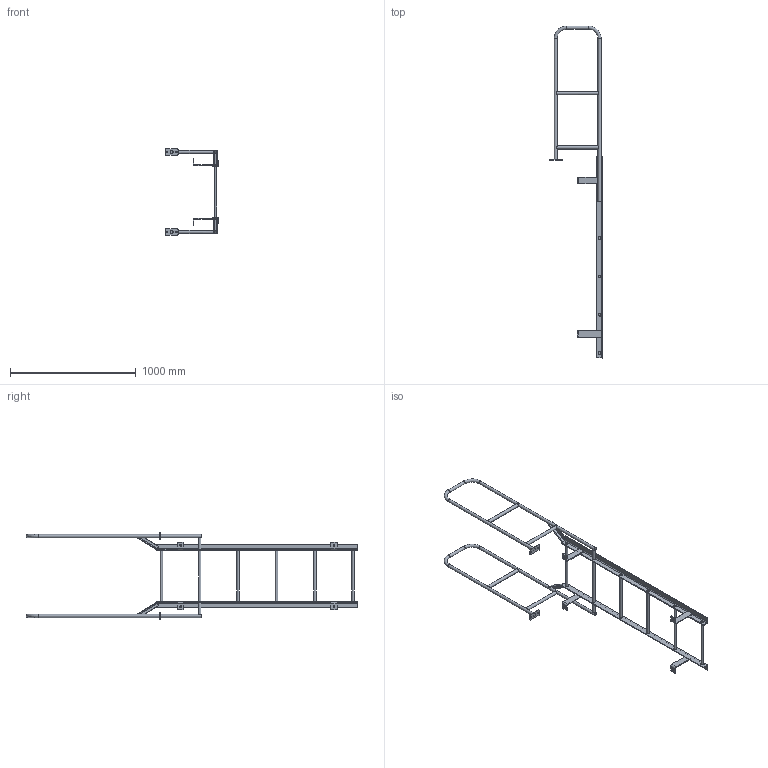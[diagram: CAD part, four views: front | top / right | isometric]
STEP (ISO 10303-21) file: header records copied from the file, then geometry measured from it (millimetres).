
FILE_DESCRIPTION(/* description */ (''),/* implementation_level */ '2;1');
FILE_NAME(/* name */ 'P:\MIKEL & KAREN\3570224 F6W SIMPLIFIED PART.stp',/* time_stamp */ '2018-07-02T15:43:59-04:00',/* author */ ('stephanie'),/* organization */ (''),/* preprocessor_version */ 'ST-DEVELOPER v16.1',/* originating_system */ 'Autodesk Inventor 2016',/* authorisation */ '');
FILE_SCHEMA (('AUTOMOTIVE_DESIGN { 1 0 10303 214 3 1 1 }'));
Length unit declared in the file: centimetre
Products named in the file (1): 3570224 F6W SIMPLIFIED PART
Bounding box: 425.58 x 2638.43 x 685.8 mm (x, y, z)
Volume: 3988935.5 mm3; surface area: 1966469.2 mm2
Topology: 14 solids, 14 shells, 224 faces, 576 edges, 374 vertices
Faces by surface type: plane 117, cylinder 99, torus 8
Full cylindrical faces by diameter (mm): 10.319 x4, 14.287 x4, 19.05 x6, 22.098 x10, 22.225 x12, 25.4 x10
Entity records: 7095 total; most frequent: CARTESIAN_POINT 1479, DIRECTION 1144, ORIENTED_EDGE 1012, EDGE_CURVE 500, AXIS2_PLACEMENT_3D 435, VERTEX_POINT 354, EDGE_LOOP 326, LINE 274
